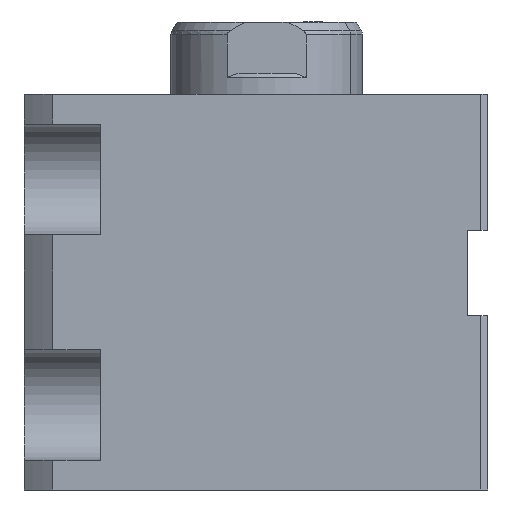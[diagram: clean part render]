
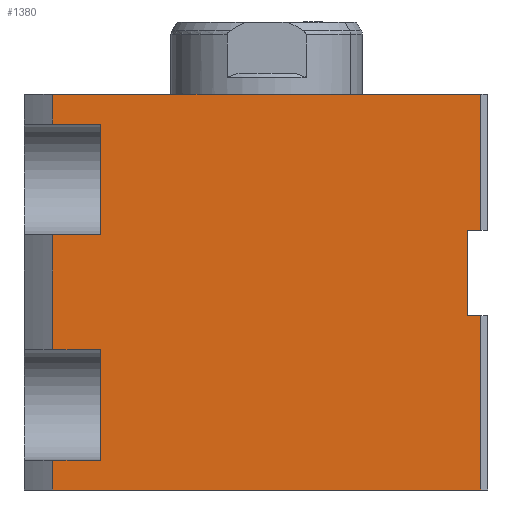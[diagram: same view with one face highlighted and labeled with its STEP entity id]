
A CAD part, left-side view. The second image highlights one B-rep face of the part: STEP entity #1380.
In plain terms, the highlighted planar face has unit normal (-1, 0, 0).
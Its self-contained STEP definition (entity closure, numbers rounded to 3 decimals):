
#249=CARTESIAN_POINT('Line Origine',(-71.,-50.279,46.5)) ;
#253=CARTESIAN_POINT('Vertex',(-71.,-50.279,41.)) ;
#255=CARTESIAN_POINT('Vertex',(-71.,-50.279,0.)) ;
#410=CARTESIAN_POINT('Vertex',(-71.,-50.279,61.)) ;
#415=CARTESIAN_POINT('Line Origine',(-71.,-48.69,61.)) ;
#419=CARTESIAN_POINT('Vertex',(-71.,-47.1,61.)) ;
#793=CARTESIAN_POINT('Vertex',(-71.,-50.279,93.)) ;
#796=CARTESIAN_POINT('Line Origine',(-71.,-50.279,46.5)) ;
#848=CARTESIAN_POINT('Line Origine',(-71.,-47.1,51.)) ;
#852=CARTESIAN_POINT('Vertex',(-71.,-47.1,41.)) ;
#945=CARTESIAN_POINT('Line Origine',(-71.,-48.69,41.)) ;
#1056=CARTESIAN_POINT('Vertex',(-71.,50.279,0.)) ;
#1064=CARTESIAN_POINT('Line Origine',(-71.,0.,0.)) ;
#1230=CARTESIAN_POINT('Vertex',(-71.,50.279,93.)) ;
#1233=CARTESIAN_POINT('Line Origine',(-71.,0.,93.)) ;
#1296=CARTESIAN_POINT('Axis2P3D Location',(-71.,57.,93.)) ;
#1301=CARTESIAN_POINT('Line Origine',(-71.,44.64,33.)) ;
#1305=CARTESIAN_POINT('Vertex',(-71.,50.279,33.)) ;
#1307=CARTESIAN_POINT('Vertex',(-71.,39.,33.)) ;
#1310=CARTESIAN_POINT('Line Origine',(-71.,39.,20.)) ;
#1314=CARTESIAN_POINT('Vertex',(-71.,39.,7.)) ;
#1317=CARTESIAN_POINT('Line Origine',(-71.,44.64,7.)) ;
#1321=CARTESIAN_POINT('Vertex',(-71.,50.279,7.)) ;
#1324=CARTESIAN_POINT('Line Origine',(-71.,50.279,3.5)) ;
#1329=CARTESIAN_POINT('Line Origine',(-71.,50.279,89.5)) ;
#1333=CARTESIAN_POINT('Vertex',(-71.,50.279,86.)) ;
#1336=CARTESIAN_POINT('Line Origine',(-71.,44.64,86.)) ;
#1340=CARTESIAN_POINT('Vertex',(-71.,39.,86.)) ;
#1343=CARTESIAN_POINT('Line Origine',(-71.,39.,73.)) ;
#1347=CARTESIAN_POINT('Vertex',(-71.,39.,60.)) ;
#1350=CARTESIAN_POINT('Line Origine',(-71.,44.64,60.)) ;
#1354=CARTESIAN_POINT('Vertex',(-71.,50.279,60.)) ;
#1357=CARTESIAN_POINT('Line Origine',(-71.,50.279,46.5)) ;
#250=DIRECTION('Vector Direction',(0.,0.,1.)) ;
#416=DIRECTION('Vector Direction',(0.,1.,0.)) ;
#797=DIRECTION('Vector Direction',(0.,0.,1.)) ;
#849=DIRECTION('Vector Direction',(0.,0.,-1.)) ;
#946=DIRECTION('Vector Direction',(0.,1.,0.)) ;
#1065=DIRECTION('Vector Direction',(0.,-1.,0.)) ;
#1234=DIRECTION('Vector Direction',(0.,-1.,0.)) ;
#1297=DIRECTION('Axis2P3D Direction',(1.,0.,0.)) ;
#1298=DIRECTION('Axis2P3D XDirection',(0.,-1.,0.)) ;
#1302=DIRECTION('Vector Direction',(0.,-1.,0.)) ;
#1311=DIRECTION('Vector Direction',(0.,0.,-1.)) ;
#1318=DIRECTION('Vector Direction',(0.,-1.,0.)) ;
#1325=DIRECTION('Vector Direction',(0.,0.,-1.)) ;
#1330=DIRECTION('Vector Direction',(0.,0.,-1.)) ;
#1337=DIRECTION('Vector Direction',(0.,-1.,0.)) ;
#1344=DIRECTION('Vector Direction',(0.,0.,-1.)) ;
#1351=DIRECTION('Vector Direction',(0.,-1.,0.)) ;
#1358=DIRECTION('Vector Direction',(0.,0.,-1.)) ;
#1299=AXIS2_PLACEMENT_3D('Plane Axis2P3D',#1296,#1297,#1298) ;
#1363=ORIENTED_EDGE('',*,*,#1309,.T.) ;
#1364=ORIENTED_EDGE('',*,*,#1316,.T.) ;
#1365=ORIENTED_EDGE('',*,*,#1323,.F.) ;
#1366=ORIENTED_EDGE('',*,*,#1328,.T.) ;
#1367=ORIENTED_EDGE('',*,*,#1068,.T.) ;
#1368=ORIENTED_EDGE('',*,*,#257,.F.) ;
#1369=ORIENTED_EDGE('',*,*,#949,.T.) ;
#1370=ORIENTED_EDGE('',*,*,#854,.F.) ;
#1371=ORIENTED_EDGE('',*,*,#421,.F.) ;
#1372=ORIENTED_EDGE('',*,*,#800,.F.) ;
#1373=ORIENTED_EDGE('',*,*,#1237,.F.) ;
#1374=ORIENTED_EDGE('',*,*,#1335,.T.) ;
#1375=ORIENTED_EDGE('',*,*,#1342,.T.) ;
#1376=ORIENTED_EDGE('',*,*,#1349,.T.) ;
#1377=ORIENTED_EDGE('',*,*,#1356,.F.) ;
#1378=ORIENTED_EDGE('',*,*,#1361,.T.) ;
#251=VECTOR('Line Direction',#250,1.) ;
#417=VECTOR('Line Direction',#416,1.) ;
#798=VECTOR('Line Direction',#797,1.) ;
#850=VECTOR('Line Direction',#849,1.) ;
#947=VECTOR('Line Direction',#946,1.) ;
#1066=VECTOR('Line Direction',#1065,1.) ;
#1235=VECTOR('Line Direction',#1234,1.) ;
#1303=VECTOR('Line Direction',#1302,1.) ;
#1312=VECTOR('Line Direction',#1311,1.) ;
#1319=VECTOR('Line Direction',#1318,1.) ;
#1326=VECTOR('Line Direction',#1325,1.) ;
#1331=VECTOR('Line Direction',#1330,1.) ;
#1338=VECTOR('Line Direction',#1337,1.) ;
#1345=VECTOR('Line Direction',#1344,1.) ;
#1352=VECTOR('Line Direction',#1351,1.) ;
#1359=VECTOR('Line Direction',#1358,1.) ;
#1380=ADVANCED_FACE('PartBody',(#1379),#1300,.F.) ;
#257=EDGE_CURVE('',#254,#256,#252,.F.) ;
#421=EDGE_CURVE('',#411,#420,#418,.T.) ;
#800=EDGE_CURVE('',#794,#411,#799,.F.) ;
#854=EDGE_CURVE('',#420,#853,#851,.T.) ;
#949=EDGE_CURVE('',#254,#853,#948,.T.) ;
#1068=EDGE_CURVE('',#1057,#256,#1067,.T.) ;
#1237=EDGE_CURVE('',#1231,#794,#1236,.T.) ;
#1309=EDGE_CURVE('',#1306,#1308,#1304,.T.) ;
#1316=EDGE_CURVE('',#1308,#1315,#1313,.T.) ;
#1323=EDGE_CURVE('',#1322,#1315,#1320,.T.) ;
#1328=EDGE_CURVE('',#1322,#1057,#1327,.T.) ;
#1335=EDGE_CURVE('',#1231,#1334,#1332,.T.) ;
#1342=EDGE_CURVE('',#1334,#1341,#1339,.T.) ;
#1349=EDGE_CURVE('',#1341,#1348,#1346,.T.) ;
#1356=EDGE_CURVE('',#1355,#1348,#1353,.T.) ;
#1361=EDGE_CURVE('',#1355,#1306,#1360,.T.) ;
#1362=EDGE_LOOP('',(#1363,#1364,#1365,#1366,#1367,#1368,#1369,#1370,#1371,#1372,#1373,#1374,#1375,#1376,#1377,#1378)) ;
#1379=FACE_OUTER_BOUND('',#1362,.T.) ;
#252=LINE('Line',#249,#251) ;
#418=LINE('Line',#415,#417) ;
#799=LINE('Line',#796,#798) ;
#851=LINE('Line',#848,#850) ;
#948=LINE('Line',#945,#947) ;
#1067=LINE('Line',#1064,#1066) ;
#1236=LINE('Line',#1233,#1235) ;
#1304=LINE('Line',#1301,#1303) ;
#1313=LINE('Line',#1310,#1312) ;
#1320=LINE('Line',#1317,#1319) ;
#1327=LINE('Line',#1324,#1326) ;
#1332=LINE('Line',#1329,#1331) ;
#1339=LINE('Line',#1336,#1338) ;
#1346=LINE('Line',#1343,#1345) ;
#1353=LINE('Line',#1350,#1352) ;
#1360=LINE('Line',#1357,#1359) ;
#1300=PLANE('Plane',#1299) ;
#254=VERTEX_POINT('',#253) ;
#256=VERTEX_POINT('',#255) ;
#411=VERTEX_POINT('',#410) ;
#420=VERTEX_POINT('',#419) ;
#794=VERTEX_POINT('',#793) ;
#853=VERTEX_POINT('',#852) ;
#1057=VERTEX_POINT('',#1056) ;
#1231=VERTEX_POINT('',#1230) ;
#1306=VERTEX_POINT('',#1305) ;
#1308=VERTEX_POINT('',#1307) ;
#1315=VERTEX_POINT('',#1314) ;
#1322=VERTEX_POINT('',#1321) ;
#1334=VERTEX_POINT('',#1333) ;
#1341=VERTEX_POINT('',#1340) ;
#1348=VERTEX_POINT('',#1347) ;
#1355=VERTEX_POINT('',#1354) ;
